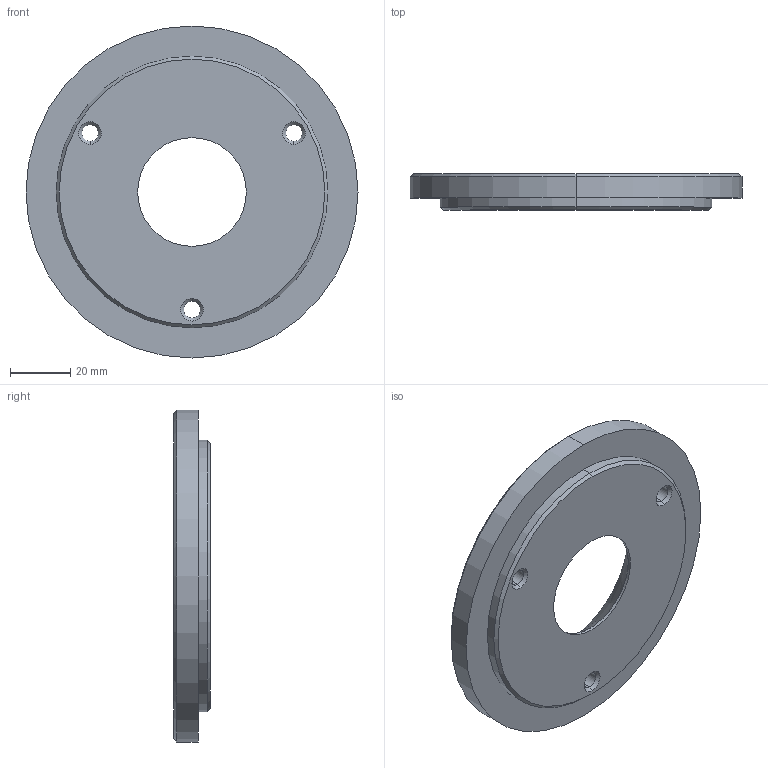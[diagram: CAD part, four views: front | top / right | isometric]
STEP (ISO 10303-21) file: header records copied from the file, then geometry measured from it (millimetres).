
FILE_DESCRIPTION (( 'STEP AP214' ), '1' );
FILE_NAME ('BR1000-110x12.STEP', '2020-02-05T12:20:58', ( 'August' ), ( '' ), 'SwSTEP 2.0', 'SolidWorks 2018', '' );
FILE_SCHEMA (( 'AUTOMOTIVE_DESIGN' ));
Length unit declared in the file: millimetre
Products named in the file (1): BR1000-110x12
Bounding box: 110 x 12 x 110 mm (x, y, z)
Volume: 79000.8 mm3; surface area: 21893.5 mm2
Topology: 1 solids, 1 shells, 42 faces, 90 edges, 54 vertices
Faces by surface type: cone 18, cylinder 18, plane 6
Entity records: 1194 total; most frequent: DIRECTION 230, CARTESIAN_POINT 187, ORIENTED_EDGE 180, AXIS2_PLACEMENT_3D 97, EDGE_CURVE 90, VERTEX_POINT 54, EDGE_LOOP 54, CIRCLE 54
